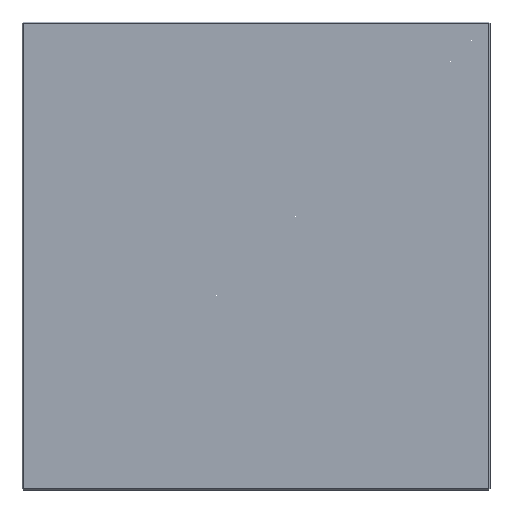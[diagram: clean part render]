
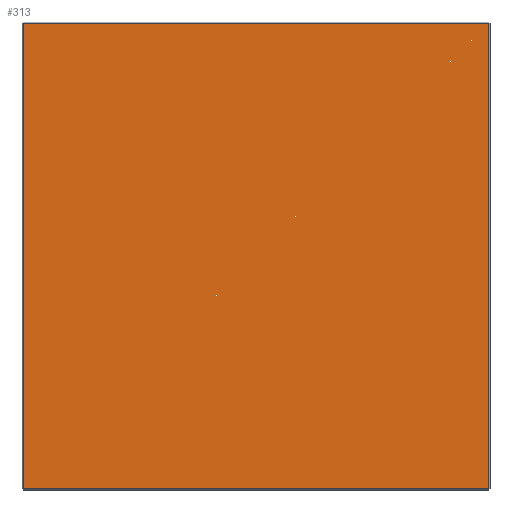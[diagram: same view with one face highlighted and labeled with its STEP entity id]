
A CAD part, front view. The second image highlights one B-rep face of the part: STEP entity #313.
In plain terms, the highlighted planar face has unit normal (0, -1, 0).
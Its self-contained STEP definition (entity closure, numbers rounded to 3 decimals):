
#11 = VERTEX_POINT ( 'NONE', #626 ) ;
#59 = VERTEX_POINT ( 'NONE', #453 ) ;
#62 = VECTOR ( 'NONE', #559, 1000. ) ;
#71 = CARTESIAN_POINT ( 'NONE',  ( 222., 0., 0. ) ) ;
#91 = LINE ( 'NONE', #322, #340 ) ;
#96 = AXIS2_PLACEMENT_3D ( 'NONE', #396, #472, #631 ) ;
#98 = ORIENTED_EDGE ( 'NONE', *, *, #385, .T. ) ;
#181 = LINE ( 'NONE', #570, #290 ) ;
#192 = LINE ( 'NONE', #71, #62 ) ;
#214 = CARTESIAN_POINT ( 'NONE',  ( 222., 0., 222. ) ) ;
#265 = DIRECTION ( 'NONE',  ( 0., 0., -1. ) ) ;
#290 = VECTOR ( 'NONE', #307, 1000. ) ;
#292 = ORIENTED_EDGE ( 'NONE', *, *, #392, .T. ) ;
#307 = DIRECTION ( 'NONE',  ( -1., 0., 0. ) ) ;
#313 = ADVANCED_FACE ( 'NONE', ( #645 ), #454, .F. ) ;
#322 = CARTESIAN_POINT ( 'NONE',  ( 0., 0., -222. ) ) ;
#331 = EDGE_CURVE ( 'NONE', #11, #370, #551, .T. ) ;
#340 = VECTOR ( 'NONE', #469, 1000. ) ;
#342 = VERTEX_POINT ( 'NONE', #214 ) ;
#366 = CARTESIAN_POINT ( 'NONE',  ( -222., 0., -222. ) ) ;
#370 = VERTEX_POINT ( 'NONE', #366 ) ;
#385 = EDGE_CURVE ( 'NONE', #59, #342, #192, .T. ) ;
#386 = ORIENTED_EDGE ( 'NONE', *, *, #331, .T. ) ;
#391 = EDGE_CURVE ( 'NONE', #370, #59, #91, .T. ) ;
#392 = EDGE_CURVE ( 'NONE', #342, #11, #181, .T. ) ;
#396 = CARTESIAN_POINT ( 'NONE',  ( 0., 0., 0. ) ) ;
#453 = CARTESIAN_POINT ( 'NONE',  ( 222., 0., -222. ) ) ;
#454 = PLANE ( 'NONE',  #96 ) ;
#469 = DIRECTION ( 'NONE',  ( 1., 0., 0. ) ) ;
#472 = DIRECTION ( 'NONE',  ( 0., 1., 0. ) ) ;
#485 = VECTOR ( 'NONE', #265, 1000. ) ;
#503 = CARTESIAN_POINT ( 'NONE',  ( -222., 0., 0. ) ) ;
#530 = ORIENTED_EDGE ( 'NONE', *, *, #391, .T. ) ;
#551 = LINE ( 'NONE', #503, #485 ) ;
#559 = DIRECTION ( 'NONE',  ( 0., 0., 1. ) ) ;
#567 = EDGE_LOOP ( 'NONE', ( #98, #292, #386, #530 ) ) ;
#570 = CARTESIAN_POINT ( 'NONE',  ( 0., 0., 222. ) ) ;
#626 = CARTESIAN_POINT ( 'NONE',  ( -222., 0., 222. ) ) ;
#631 = DIRECTION ( 'NONE',  ( 0., 0., 1. ) ) ;
#645 = FACE_OUTER_BOUND ( 'NONE', #567, .T. ) ;
